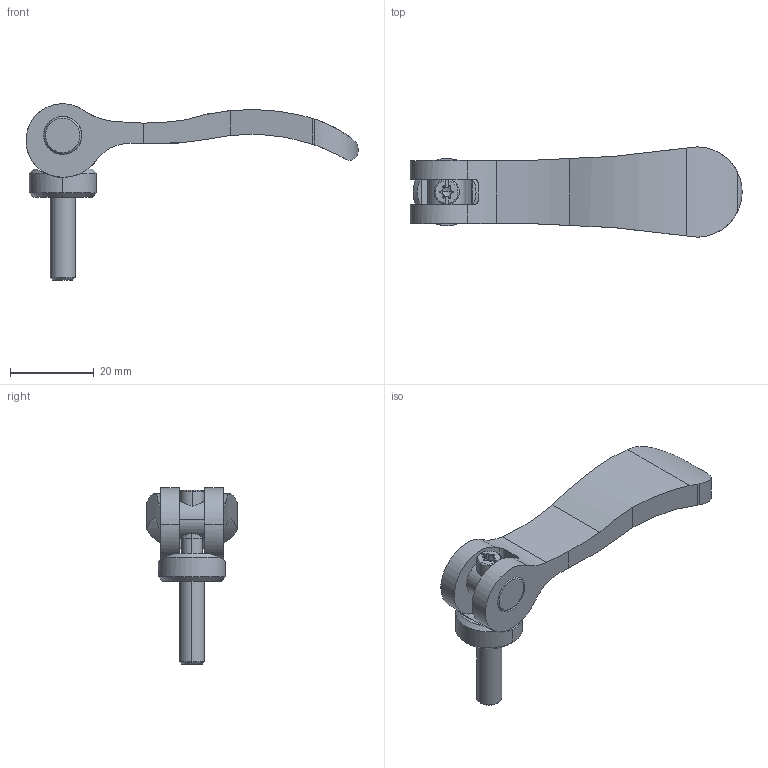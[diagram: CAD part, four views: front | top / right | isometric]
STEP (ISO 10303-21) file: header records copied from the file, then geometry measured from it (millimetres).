
FILE_DESCRIPTION (( 'STEP AP203' ), '1' );
FILE_NAME ('KCL06X20-SUS.STEP', '2024-08-29T01:49:41', ( '' ), ( '' ), 'SwSTEP 2.0', 'SolidWorks 2022', '' );
FILE_SCHEMA (( 'CONFIG_CONTROL_DESIGN' ));
Length unit declared in the file: millimetre
Products named in the file (5): KCL06X20-SUS_04_ﾃﾞﾌｫﾙﾄ; KCL06X20-SUS_03_ﾃﾞﾌｫﾙﾄ; KCL06X20-SUS_01_ﾃﾞﾌｫﾙﾄ; KCL06X20-SUS; KCL06X20-SUS_02_ﾃﾞﾌｫﾙﾄ
Assembly tree (4 placements, depth 2):
  KCL06X20-SUS
    KCL06X20-SUS_01_ﾃﾞﾌｫﾙﾄ
    KCL06X20-SUS_02_ﾃﾞﾌｫﾙﾄ
    KCL06X20-SUS_03_ﾃﾞﾌｫﾙﾄ
    KCL06X20-SUS_04_ﾃﾞﾌｫﾙﾄ
Bounding box: 79.15 x 21.5 x 42.04 mm (x, y, z)
Volume: 10474.9 mm3; surface area: 6568.2 mm2
Topology: 4 solids, 4 shells, 109 faces, 287 edges, 186 vertices
Faces by surface type: cylinder 58, plane 34, cone 17
Entity records: 4765 total; most frequent: CARTESIAN_POINT 1640, ORIENTED_EDGE 570, DIRECTION 524, EDGE_CURVE 285, AXIS2_PLACEMENT_3D 211, VERTEX_POINT 186, EDGE_LOOP 119, ADVANCED_FACE 109
